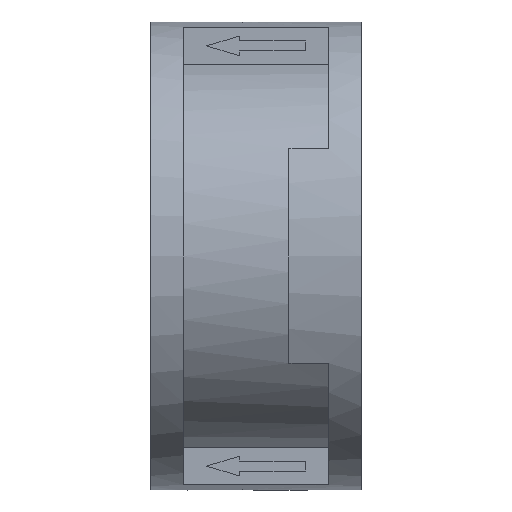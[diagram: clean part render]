
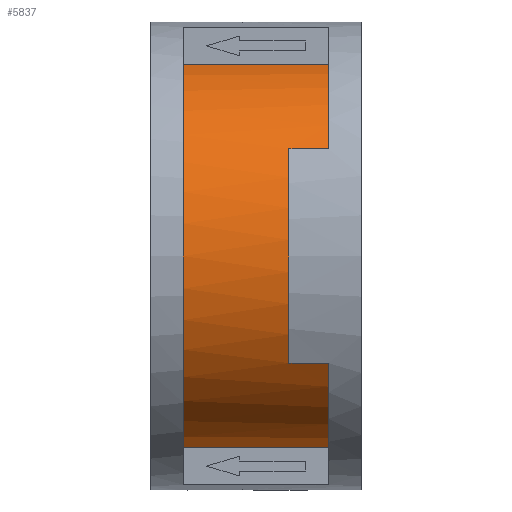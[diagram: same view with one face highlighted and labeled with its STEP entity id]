
A CAD part, left-side view. The second image highlights one B-rep face of the part: STEP entity #5837.
In plain terms, the highlighted cylindrical face has radius 60 mm (diameter 120 mm), a partial arc.
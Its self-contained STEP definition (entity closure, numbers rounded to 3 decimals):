
#55=CYLINDRICAL_SURFACE('',#6285,60.);
#476=CIRCLE('',#6286,60.);
#477=CIRCLE('',#6287,60.);
#478=CIRCLE('',#6288,60.);
#479=CIRCLE('',#6289,60.);
#904=LINE('',#17375,#1336);
#905=LINE('',#17379,#1337);
#906=LINE('',#17383,#1338);
#907=LINE('',#17387,#1339);
#1336=VECTOR('',#7474,44.);
#1337=VECTOR('',#7477,12.);
#1338=VECTOR('',#7480,12.);
#1339=VECTOR('',#7483,44.);
#1694=FACE_OUTER_BOUND('',#2046,.T.);
#2046=EDGE_LOOP('',(#4861,#4862,#4863,#4864,#4865,#4866,#4867,#4868));
#2724=VERTEX_POINT('',#17373);
#2725=VERTEX_POINT('',#17374);
#2726=VERTEX_POINT('',#17376);
#2727=VERTEX_POINT('',#17378);
#2728=VERTEX_POINT('',#17380);
#2729=VERTEX_POINT('',#17382);
#2730=VERTEX_POINT('',#17384);
#2731=VERTEX_POINT('',#17386);
#3474=EDGE_CURVE('',#2724,#2725,#904,.F.);
#3475=EDGE_CURVE('',#2726,#2725,#476,.T.);
#3476=EDGE_CURVE('',#2727,#2726,#905,.F.);
#3477=EDGE_CURVE('',#2728,#2727,#477,.T.);
#3478=EDGE_CURVE('',#2729,#2728,#906,.T.);
#3479=EDGE_CURVE('',#2730,#2729,#478,.T.);
#3480=EDGE_CURVE('',#2731,#2730,#907,.F.);
#3481=EDGE_CURVE('',#2724,#2731,#479,.F.);
#4861=ORIENTED_EDGE('',*,*,#3474,.T.);
#4862=ORIENTED_EDGE('',*,*,#3475,.F.);
#4863=ORIENTED_EDGE('',*,*,#3476,.F.);
#4864=ORIENTED_EDGE('',*,*,#3477,.F.);
#4865=ORIENTED_EDGE('',*,*,#3478,.F.);
#4866=ORIENTED_EDGE('',*,*,#3479,.F.);
#4867=ORIENTED_EDGE('',*,*,#3480,.F.);
#4868=ORIENTED_EDGE('',*,*,#3481,.F.);
#5837=ADVANCED_FACE('',(#1694),#55,.T.);
#6285=AXIS2_PLACEMENT_3D('',#17372,#7472,#7473);
#6286=AXIS2_PLACEMENT_3D('',#17377,#7475,#7476);
#6287=AXIS2_PLACEMENT_3D('',#17381,#7478,#7479);
#6288=AXIS2_PLACEMENT_3D('',#17385,#7481,#7482);
#6289=AXIS2_PLACEMENT_3D('',#17388,#7484,#7485);
#7472=DIRECTION('center_axis',(0.,-1.,0.));
#7473=DIRECTION('ref_axis',(0.,0.,
-1.));
#7474=DIRECTION('',(0.,1.,0.));
#7475=DIRECTION('center_axis',(0.,-1.,0.));
#7476=DIRECTION('ref_axis',(0.,0.,
-1.));
#7477=DIRECTION('',(0.,1.,0.));
#7478=DIRECTION('center_axis',(0.,-1.,0.));
#7479=DIRECTION('ref_axis',(0.,0.,
-1.));
#7480=DIRECTION('',(0.,1.,0.));
#7481=DIRECTION('center_axis',(0.,-1.,0.));
#7482=DIRECTION('ref_axis',(0.,0.,
-1.));
#7483=DIRECTION('',(0.,1.,0.));
#7484=DIRECTION('center_axis',(0.,-1.,0.));
#7485=DIRECTION('ref_axis',(0.,0.,
-1.));
#17372=CARTESIAN_POINT('Origin',(0.,32.,
0.));
#17373=CARTESIAN_POINT('',(-15.,54.,-58.095));
#17374=CARTESIAN_POINT('',(-15.,10.,-58.095));
#17375=CARTESIAN_POINT('',(-15.,10.,-58.095));
#17376=CARTESIAN_POINT('',(-50.436,10.,-32.5));
#17377=CARTESIAN_POINT('Origin',(0.,10.,0.));
#17378=CARTESIAN_POINT('',(-50.436,22.,-32.5));
#17379=CARTESIAN_POINT('',(-50.436,10.,-32.5));
#17380=CARTESIAN_POINT('',(-50.436,22.,32.5));
#17381=CARTESIAN_POINT('Origin',(0.,22.,0.));
#17382=CARTESIAN_POINT('',(-50.436,10.,32.5));
#17383=CARTESIAN_POINT('',(-50.436,10.,32.5));
#17384=CARTESIAN_POINT('',(-15.,10.,58.095));
#17385=CARTESIAN_POINT('Origin',(0.,10.,0.));
#17386=CARTESIAN_POINT('',(-15.,54.,58.095));
#17387=CARTESIAN_POINT('',(-15.,10.,58.095));
#17388=CARTESIAN_POINT('Origin',(0.,54.,
0.));
